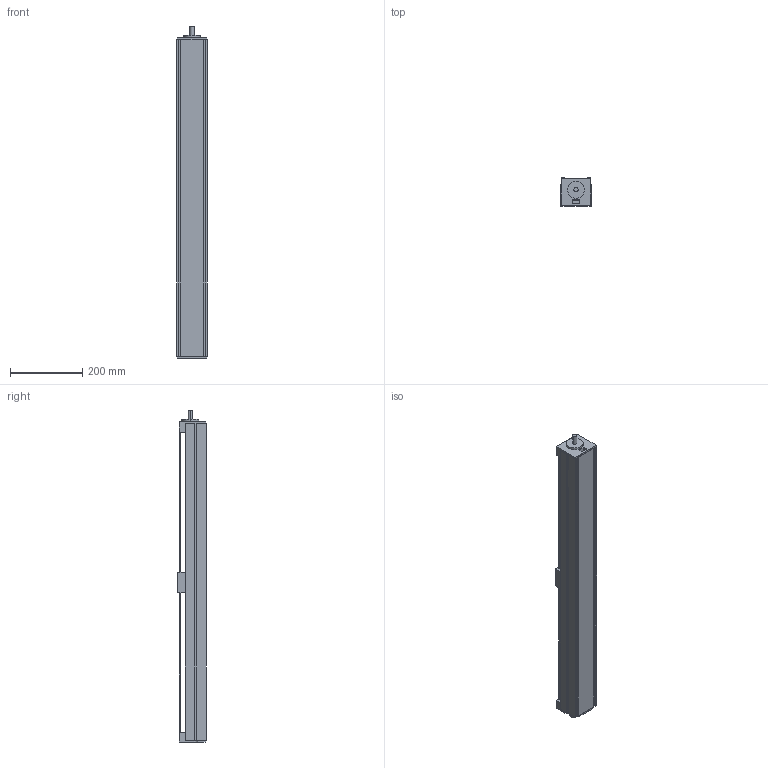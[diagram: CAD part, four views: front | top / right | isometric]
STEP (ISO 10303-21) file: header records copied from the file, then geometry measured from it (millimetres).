
FILE_DESCRIPTION (( 'STEP AP203' ), '1' );
FILE_NAME ('MSX84B-800-LL2005-P7短面板式 .STEP', '2013-11-02T03:06:02', ( '微软用户' ), ( '微软中国' ), 'SwSTEP 2.0', 'SolidWorks 2010', '' );
FILE_SCHEMA (( 'CONFIG_CONTROL_DESIGN' ));
Length unit declared in the file: millimetre
Products named in the file (1): MSX84B-800-LL2005-P7傻醱啣宒 
Bounding box: 84 x 78 x 920 mm (x, y, z)
Volume: 2320346.9 mm3; surface area: 630401.2 mm2
Topology: 1 solids, 1 shells, 158 faces, 449 edges, 286 vertices
Faces by surface type: plane 126, cylinder 24, cone 8
Entity records: 5074 total; most frequent: CARTESIAN_POINT 886, ORIENTED_EDGE 882, DIRECTION 807, EDGE_CURVE 441, VECTOR 393, LINE 393, VERTEX_POINT 286, AXIS2_PLACEMENT_3D 207
